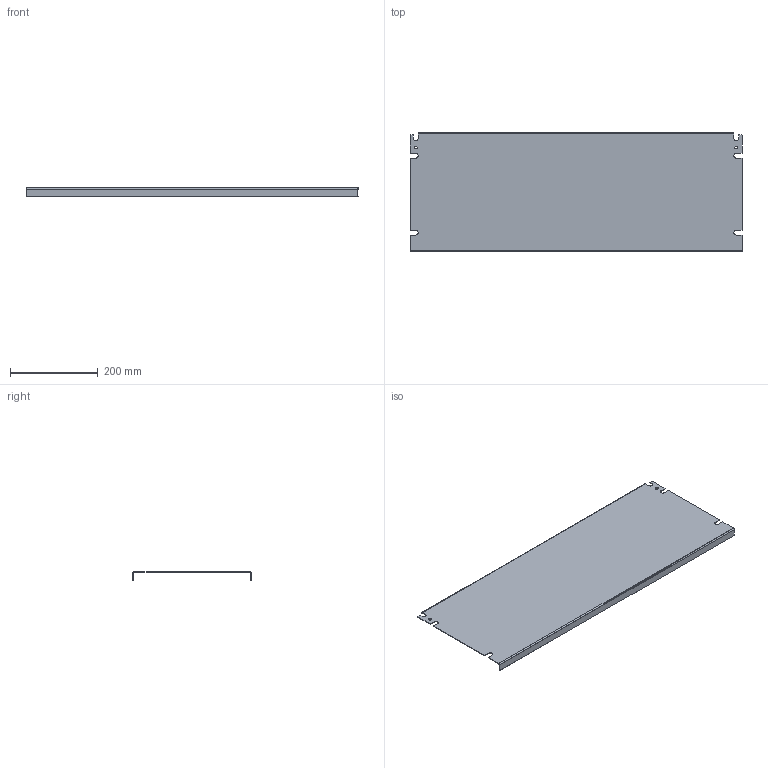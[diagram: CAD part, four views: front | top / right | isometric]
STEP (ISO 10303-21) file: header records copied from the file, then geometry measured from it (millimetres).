
FILE_DESCRIPTION (( 'STEP AP203' ), '1' );
FILE_NAME ('g600p800h.STEP', '2010-01-29T17:52:37', ( 'Hoffman User' ), ( 'Hoffman Enclosures' ), 'SwSTEP 2.0', 'SolidWorks 2009', '' );
FILE_SCHEMA (( 'CONFIG_CONTROL_DESIGN' ));
Length unit declared in the file: inch
Products named in the file (2): 87955223; g600p800h
Assembly tree (1 placements, depth 2):
  g600p800h
    87955223
Bounding box: 755 x 270 x 19 mm (x, y, z)
Volume: 316873.1 mm3; surface area: 456869.4 mm2
Topology: 1 solids, 1 shells, 54 faces, 140 edges, 88 vertices
Faces by surface type: plane 36, cylinder 16, bspline 2
Entity records: 1948 total; most frequent: CARTESIAN_POINT 416, ORIENTED_EDGE 280, DIRECTION 276, EDGE_CURVE 140, LINE 108, VECTOR 108, VERTEX_POINT 88, AXIS2_PLACEMENT_3D 84
